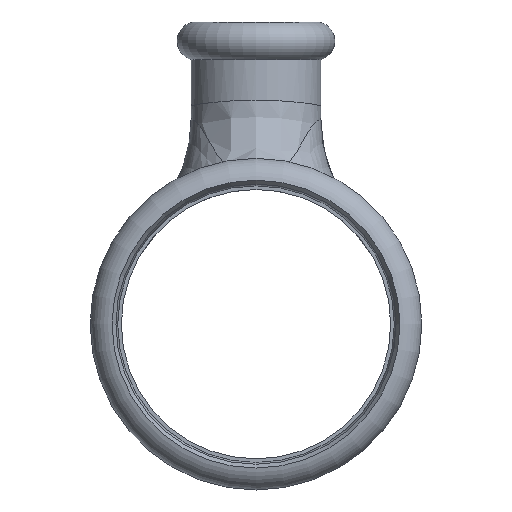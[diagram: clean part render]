
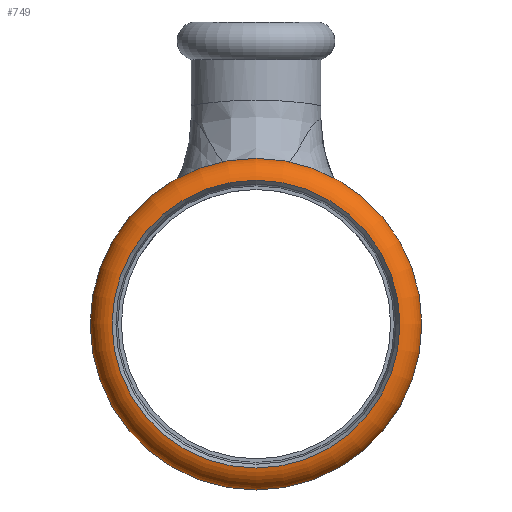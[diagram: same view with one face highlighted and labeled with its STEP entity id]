
A CAD part, left-side view. The second image highlights one B-rep face of the part: STEP entity #749.
In plain terms, the highlighted toroidal (fillet/blend) face has major radius 27.434 mm and minor radius 4.958 mm.
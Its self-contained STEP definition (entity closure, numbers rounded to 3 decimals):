
#120=FACE_OUTER_BOUND('',#160,.T.);
#160=EDGE_LOOP('',(#513,#514,#515,#516,#517,#518,#519,#520));
#217=CIRCLE('',#827,28.75);
#218=CIRCLE('',#828,28.75);
#219=CIRCLE('',#829,4.958);
#220=CIRCLE('',#830,28.1);
#221=CIRCLE('',#831,28.1);
#222=CIRCLE('',#832,28.1);
#223=CIRCLE('',#833,28.75);
#289=VERTEX_POINT('',#1168);
#290=VERTEX_POINT('',#1169);
#291=VERTEX_POINT('',#1171);
#292=VERTEX_POINT('',#1173);
#293=VERTEX_POINT('',#1175);
#294=VERTEX_POINT('',#1177);
#380=EDGE_CURVE('',#289,#290,#217,.T.);
#381=EDGE_CURVE('',#291,#289,#218,.T.);
#382=EDGE_CURVE('',#291,#292,#219,.T.);
#383=EDGE_CURVE('',#292,#293,#220,.T.);
#384=EDGE_CURVE('',#293,#294,#221,.T.);
#385=EDGE_CURVE('',#294,#292,#222,.T.);
#386=EDGE_CURVE('',#290,#291,#223,.T.);
#513=ORIENTED_EDGE('',*,*,#380,.F.);
#514=ORIENTED_EDGE('',*,*,#381,.F.);
#515=ORIENTED_EDGE('',*,*,#382,.T.);
#516=ORIENTED_EDGE('',*,*,#383,.T.);
#517=ORIENTED_EDGE('',*,*,#384,.T.);
#518=ORIENTED_EDGE('',*,*,#385,.T.);
#519=ORIENTED_EDGE('',*,*,#382,.F.);
#520=ORIENTED_EDGE('',*,*,#386,.F.);
#738=TOROIDAL_SURFACE('',#826,27.434,4.958);
#749=ADVANCED_FACE('',(#120),#738,.T.);
#826=AXIS2_PLACEMENT_3D('',#1167,#953,#954);
#827=AXIS2_PLACEMENT_3D('',#1170,#955,#956);
#828=AXIS2_PLACEMENT_3D('',#1172,#957,#958);
#829=AXIS2_PLACEMENT_3D('',#1174,#959,#960);
#830=AXIS2_PLACEMENT_3D('',#1176,#961,#962);
#831=AXIS2_PLACEMENT_3D('',#1178,#963,#964);
#832=AXIS2_PLACEMENT_3D('',#1179,#965,#966);
#833=AXIS2_PLACEMENT_3D('',#1180,#967,#968);
#953=DIRECTION('center_axis',(1.,0.,0.));
#954=DIRECTION('ref_axis',(0.,0.,1.));
#955=DIRECTION('center_axis',(1.,0.,0.));
#956=DIRECTION('ref_axis',(0.,1.,0.));
#957=DIRECTION('center_axis',(1.,0.,0.));
#958=DIRECTION('ref_axis',(0.,1.,0.));
#959=DIRECTION('center_axis',(0.,1.,0.));
#960=DIRECTION('ref_axis',(0.,0.,-1.));
#961=DIRECTION('center_axis',(1.,0.,0.));
#962=DIRECTION('ref_axis',(0.,1.,0.));
#963=DIRECTION('center_axis',(1.,0.,0.));
#964=DIRECTION('ref_axis',(0.,1.,0.));
#965=DIRECTION('center_axis',(1.,0.,0.));
#966=DIRECTION('ref_axis',(0.,1.,0.));
#967=DIRECTION('center_axis',(1.,0.,0.));
#968=DIRECTION('ref_axis',(0.,1.,0.));
#1167=CARTESIAN_POINT('Origin',(-64.087,0.,0.));
#1168=CARTESIAN_POINT('',(-59.307,28.75,0.));
#1169=CARTESIAN_POINT('',(-59.307,-28.75,0.));
#1170=CARTESIAN_POINT('Origin',(-59.307,0.,0.));
#1171=CARTESIAN_POINT('',(-59.307,0.,-28.75));
#1172=CARTESIAN_POINT('Origin',(-59.307,0.,0.));
#1173=CARTESIAN_POINT('',(-69.,0.,-28.1));
#1174=CARTESIAN_POINT('Origin',(-64.087,0.,
-27.434));
#1175=CARTESIAN_POINT('',(-69.,28.1,0.));
#1176=CARTESIAN_POINT('Origin',(-69.,0.,0.));
#1177=CARTESIAN_POINT('',(-69.,-28.1,0.));
#1178=CARTESIAN_POINT('Origin',(-69.,0.,0.));
#1179=CARTESIAN_POINT('Origin',(-69.,0.,0.));
#1180=CARTESIAN_POINT('Origin',(-59.307,0.,0.));
